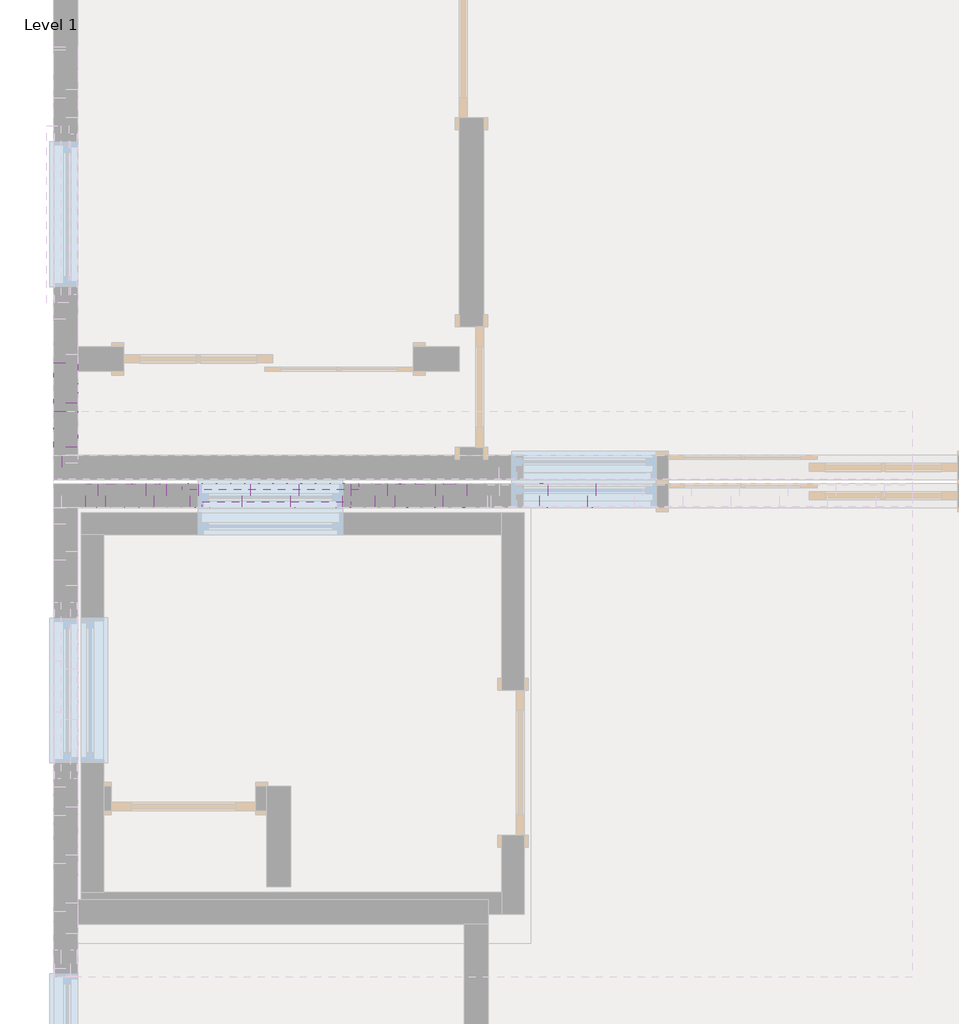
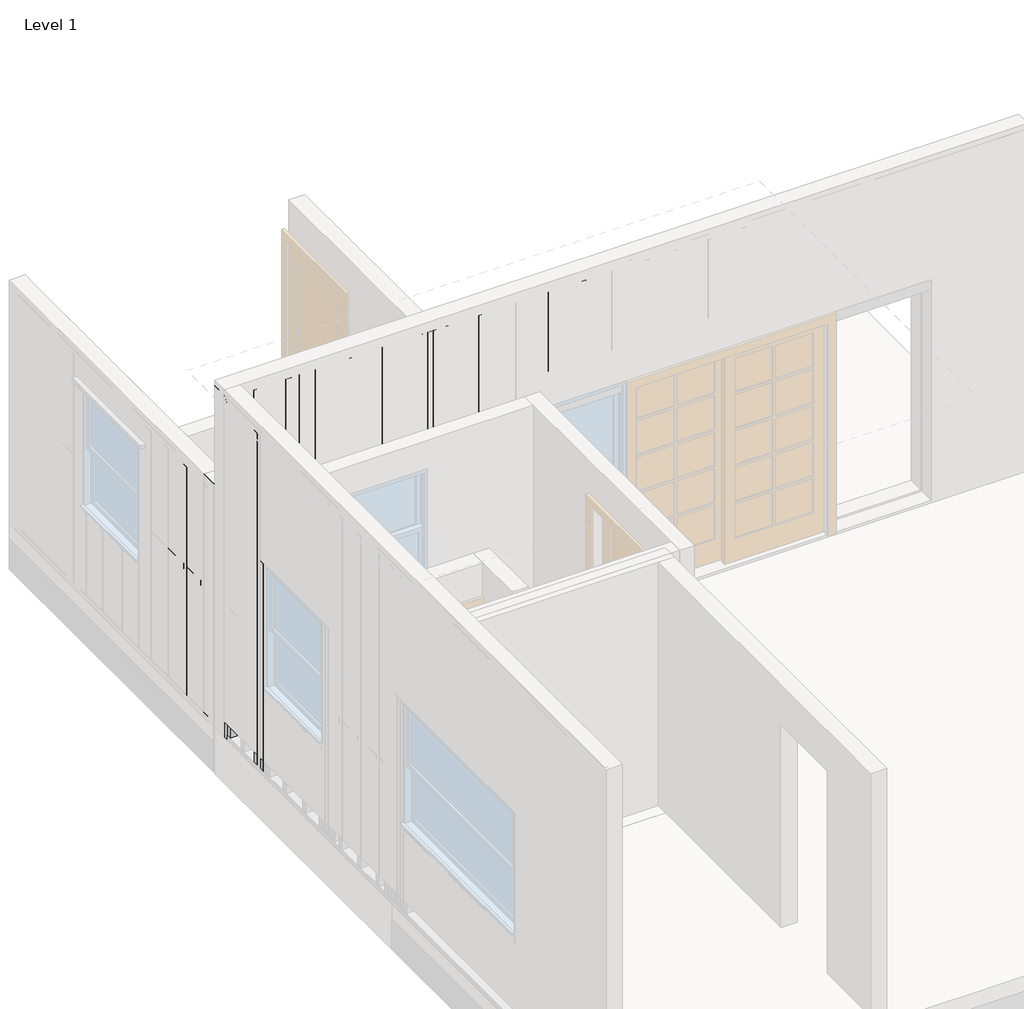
# One storey, part 8 of 12: 97 beams.
"""IFC4 building model written with IfcOpenShell, lengths in millimetres."""

from ifc_helpers import new_model, si_unit, frame, origin, origin_with_axes, place, context, project, spatial, polyline, outline, extrude, transform, mapped, element, save
from components import beam_a9cb3005, beam_e4510ef5, dimension_lumber_2x6_64087709, beam_0e257e4f, beam_ae0cc952, beam_fa8ff98f, beam_4ebb4f1d, beam_d4d02063, beam_4777987f, beam_558964e0, beam_a6087a68, beam_15472744, beam_b2f74068, beam_19b97b81, beam_be169553, beam_752c70e0, beam_e2420293, beam_c7d5a1a4, beam_9beb57b8, beam_4a104cc5, beam_9d6aa0d6, beam_6150974a, beam_3e93aa5a, beam_a6a72058, beam_0c42ba8b, beam_97ee1fa4, beam_1e26743b, beam_d29d678d, beam_a4d90c35, beam_b0a01ff6, beam_d6eb6cf6, beam_9a5d82eb, beam_906e102a

model = new_model("IFC4")

# Units and contexts
model_context = context("Model", 3, world=origin())
ifc_project = project(units=[si_unit("LENGTHUNIT", "METRE", prefix="MILLI")], contexts=[model_context])

# Site, building, storey
site = spatial("IfcSite", under=ifc_project)
building = spatial("IfcBuilding", under=site)
storey = spatial("IfcBuildingStorey", under=building, Name="Level 1", Elevation=0.0)

# Beams
placement = place(None, origin())
beam_shape = beam_a9cb3005(model_context)
element("IfcBeam", 1, ObjectType="BraceBeam : 2\" x 8\"", at=placement, inside=storey, context=model_context, shape_type="MappedRepresentation", body=[
    mapped(beam_shape, transform((-10158.0790766, -18779.0263369, 2244.725), x_axis=(-1.0, 0.0, 0.0), y_axis=(0.0, -1.0, 0.0), z_axis=(0.0, 0.0, 1.0))),
])
beam_2_shape = beam_e4510ef5(model_context)
element("IfcBeam", 2, ObjectType="BraceBeam : 2\" x 8\"", at=placement, inside=storey, context=model_context, shape_type="MappedRepresentation", body=[
    mapped(beam_2_shape, transform((-10119.9790766, -18893.3263369, 2244.725), x_axis=(-1.0, 0.0, 0.0), y_axis=(0.0, -1.0, 0.0), z_axis=(0.0, 0.0, 1.0))),
])
dimension_lumber_2x6_shape = dimension_lumber_2x6_64087709(model_context)
element("IfcBeam", 3, ObjectType="Dimension Lumber : 2x6", at=placement, inside=storey, context=model_context, shape_type="MappedRepresentation", body=[
    mapped(dimension_lumber_2x6_shape, transform((-10094.5840766, -18836.1763369, 25.4), x_axis=(-1.0000000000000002, 0.0, 0.0), y_axis=(0.0, 0.0, -1.0000000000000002), z_axis=(0.0, -1.0000000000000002, 0.0))),
])
element("IfcBeam", 4, ObjectType="Rectangular(Timber)-Beam : Timber_0' - 1 31/32\" x0' - 5 29/32\" _ContentGenerator", at=placement, inside=storey, context=model_context, shape_type="SweptSolid", body=[
    extrude(outline(polyline([(-11478.8690766, -18759.9763369), (-11428.0690766, -18759.9763369), (-11428.0690766, -18912.3763369), (-11478.8690766, -18912.3763369), (-11478.8690766, -18759.9763369)])), frame((0.0, 0.0, 50.8), z_axis=(0.0, 0.0, 1.0), x_axis=(1.0, 0.0, 0.0)), (0.0, 0.0, 1.0), 3330.056975),
])
element("IfcBeam", 5, ObjectType="Rectangular(Timber)-Beam : Timber_0' - 1 31/32\" x0' - 5 29/32\" _ContentGenerator", at=placement, inside=storey, context=model_context, shape_type="SweptSolid", body=[
    extrude(outline(polyline([(2336.8, -11529.6840766), (2387.6, -11478.8840766), (2438.4, -11529.6840766), (2336.8, -11529.6840766)])), frame((0.0, -18734.6431336, 0.0), z_axis=(0.0, 1.0, 0.0), x_axis=(0.0, 0.0, 1.0)), (0.0, 0.0, 1.0), 152.4),
])
element("IfcBeam", 6, ObjectType="Rectangular(Timber)-Beam : Timber_0' - 1 31/32\" x0' - 5 29/32\" _ContentGenerator", at=placement, inside=storey, context=model_context, shape_type="SweptSolid", body=[
    extrude(outline(polyline([(-8612.1836983, -18582.2431336), (-8612.1836983, -18734.6431336), (-11529.6790766, -18734.6431336), (-11529.6790766, -18582.2431336), (-8612.1836983, -18582.2431336)])), origin_with_axes(), (0.0, 0.0, 1.0), 50.8),
])
element("IfcBeam", 7, ObjectType="Rectangular(Timber)-Beam : Timber_0' - 1 31/32\" x0' - 5 29/32\" _ContentGenerator", at=placement, inside=storey, context=model_context, shape_type="SweptSolid", body=[
    extrude(outline(polyline([(-18963.1863369, 3378.2), (-18912.3863369, 3429.0), (-18912.3863369, 0.0), (-18963.1863369, 0.0), (-18963.1863369, 3378.2)])), frame((-11529.6790766, 0.0, 0.0), z_axis=(1.0, 0.0, 0.0), x_axis=(0.0, 1.0, 0.0)), (0.0, 0.0, 1.0), 152.4),
])
element("IfcBeam", 8, ObjectType="Rectangular(Timber)-Beam : Timber_0' - 1 31/32\" x0' - 5 29/32\" _ContentGenerator", at=placement, inside=storey, context=model_context, shape_type="SweptSolid", body=[
    extrude(outline(polyline([(-11529.6790766, -18759.9763369), (-11478.8790766, -18759.9763369), (-11478.8790766, -18912.3763369), (-11529.6790766, -18912.3763369), (-11529.6790766, -18759.9763369)])), origin_with_axes(), (0.0, 0.0, 1.0), 3431.656975),
])
element("IfcBeam", 9, ObjectType="Rectangular(Timber)-Beam : Timber_0' - 1 31/32\" x0' - 5 29/32\" _ContentGenerator", at=placement, inside=storey, context=model_context, shape_type="SweptSolid", body=[
    extrude(outline(polyline([(-11377.2790766, -18683.7763369), (-11377.2790766, -18734.5763369), (-11529.6790766, -18734.5763369), (-11529.6790766, -18683.7763369), (-11377.2790766, -18683.7763369)])), frame((0.0, 0.0, 50.8), z_axis=(0.0, 0.0, 1.0), x_axis=(1.0, 0.0, 0.0)), (0.0, 0.0, 1.0), 2286.0),
])
element("IfcBeam", 10, ObjectType="Rectangular(Timber)-Beam : Timber_0' - 1 31/32\" x0' - 5 29/32\" _ContentGenerator", at=placement, inside=storey, context=model_context, shape_type="SweptSolid", body=[
    extrude(outline(polyline([(-18632.9763369, 2387.6), (-18582.1763369, 2336.8), (-18582.1763369, 50.8), (-18632.9763369, 50.8), (-18632.9763369, 2387.6)])), frame((-11529.6790766, 0.0, 0.0), z_axis=(1.0, 0.0, 0.0), x_axis=(0.0, 1.0, 0.0)), (0.0, 0.0, 1.0), 152.4),
])
element("IfcBeam", 11, ObjectType="Rectangular(Timber)-Beam : Timber_0' - 1 31/32\" x0' - 5 29/32\" _ContentGenerator", at=placement, inside=storey, context=model_context, shape_type="SweptSolid", body=[
    extrude(outline(polyline([(-11377.2790766, -18531.3763369), (-11377.2790766, -18582.1763369), (-11529.6790766, -18582.1763369), (-11529.6790766, -18531.3763369), (-11377.2790766, -18531.3763369)])), frame((0.0, 0.0, 50.8), z_axis=(0.0, 0.0, 1.0), x_axis=(1.0, 0.0, 0.0)), (0.0, 0.0, 1.0), 2286.0),
])
element("IfcBeam", 12, ObjectType="Rectangular(Timber)-Beam : Timber_0' - 1 31/32\" x0' - 5 29/32\" _ContentGenerator", at=placement, inside=storey, context=model_context, shape_type="SweptSolid", body=[
    extrude(outline(polyline([(-9700.8790772, -18759.9763369), (-9700.8790772, -18912.3763369), (-10615.2790766, -18912.3763369), (-10615.2790766, -18759.9763369), (-9700.8790772, -18759.9763369)])), frame((0.0, 0.0, 882.65), z_axis=(0.0, 0.0, 1.0), x_axis=(1.0, 0.0, 0.0)), (0.0, 0.0, 1.0), 50.8),
])
beam_3_shape = beam_0e257e4f(model_context)
element("IfcBeam", 13, ObjectType="Rectangular(Timber)-Beam : Timber_0' - 1 31/32\" x0' - 5 29/32\" _ContentGenerator", at=placement, inside=storey, context=model_context, shape_type="MappedRepresentation", body=[
    mapped(beam_3_shape, transform((-10310.4790766, -18836.1763369, 466.725), x_axis=(0.0, 0.0, 1.0), y_axis=(1.0, 0.0, 0.0), z_axis=(0.0, 1.0, 0.0))),
])
element("IfcBeam", 14, ObjectType="Rectangular(Timber)-Beam : Timber_0' - 1 31/32\" x0' - 5 29/32\" _ContentGenerator", at=placement, inside=storey, context=model_context, shape_type="MappedRepresentation", body=[
    mapped(beam_3_shape, transform((-10005.6790766, -18836.1763369, 466.725), x_axis=(0.0, 0.0, 1.0), y_axis=(1.0, 0.0, 0.0), z_axis=(0.0, 1.0, 0.0))),
])
element("IfcBeam", 15, ObjectType="Rectangular(Timber)-Beam : Timber_0' - 1 31/32\" x0' - 5 29/32\" _ContentGenerator", at=placement, inside=storey, context=model_context, shape_type="MappedRepresentation", body=[
    mapped(beam_3_shape, transform((-9726.2790766, -18836.1763369, 466.725), x_axis=(0.0, 0.0, 1.0), y_axis=(1.0, 0.0, 0.0), z_axis=(0.0, 1.0, 0.0))),
])
element("IfcBeam", 16, ObjectType="Rectangular(Timber)-Beam : Timber_0' - 1 31/32\" x0' - 5 29/32\" _ContentGenerator", at=placement, inside=storey, context=model_context, shape_type="MappedRepresentation", body=[
    mapped(beam_3_shape, transform((-10589.8790766, -18836.1763369, 466.725), x_axis=(0.0, 0.0, 1.0), y_axis=(1.0, 0.0, 0.0), z_axis=(0.0, 1.0, 0.0))),
])
beam_4_shape = beam_ae0cc952(model_context)
element("IfcBeam", 17, ObjectType="Rectangular(Timber)-Beam : Timber_0' - 1 31/32\" x0' - 5 29/32\" _ContentGenerator", at=placement, inside=storey, context=model_context, shape_type="MappedRepresentation", body=[
    mapped(beam_4_shape, transform((-10005.6790766, -18836.1763369, 2884.2284875), x_axis=(0.0, 0.0, 1.0), y_axis=(1.0, 0.0, 0.0), z_axis=(0.0, 1.0, 0.0))),
])
element("IfcBeam", 18, ObjectType="Rectangular(Timber)-Beam : Timber_0' - 1 31/32\" x0' - 5 29/32\" _ContentGenerator", at=placement, inside=storey, context=model_context, shape_type="MappedRepresentation", body=[
    mapped(beam_4_shape, transform((-10310.4790766, -18836.1763369, 2884.2284875), x_axis=(0.0, 0.0, 1.0), y_axis=(1.0, 0.0, 0.0), z_axis=(0.0, 1.0, 0.0))),
])
element("IfcBeam", 19, ObjectType="Rectangular(Timber)-Beam : Timber_0' - 1 31/32\" x0' - 5 29/32\" _ContentGenerator", at=placement, inside=storey, context=model_context, shape_type="MappedRepresentation", body=[
    mapped(beam_4_shape, transform((-9675.4790766, -18836.1763369, 2884.2284875), x_axis=(0.0, 0.0, 1.0), y_axis=(1.0, 0.0, 0.0), z_axis=(0.0, 1.0, 0.0))),
])
element("IfcBeam", 20, ObjectType="Rectangular(Timber)-Beam : Timber_0' - 1 31/32\" x0' - 5 29/32\" _ContentGenerator", at=placement, inside=storey, context=model_context, shape_type="MappedRepresentation", body=[
    mapped(beam_4_shape, transform((-10640.6790766, -18836.1763369, 2884.2284875), x_axis=(0.0, 0.0, 1.0), y_axis=(1.0, 0.0, 0.0), z_axis=(0.0, 1.0, 0.0))),
])
beam_5_shape = beam_fa8ff98f(model_context)
element("IfcBeam", 21, ObjectType="Rectangular(Timber)-Beam : Timber_0' - 1 31/32\" x0' - 5 29/32\" _ContentGenerator", at=placement, inside=storey, context=model_context, shape_type="MappedRepresentation", body=[
    mapped(beam_5_shape, transform((-8126.9257433, -18836.1763369, 2985.8284875), x_axis=(0.0, 0.0, 1.0), y_axis=(1.0, 0.0, 0.0), z_axis=(0.0, 1.0, 0.0))),
])
element("IfcBeam", 22, ObjectType="Rectangular(Timber)-Beam : Timber_0' - 1 31/32\" x0' - 5 29/32\" _ContentGenerator", at=placement, inside=storey, context=model_context, shape_type="MappedRepresentation", body=[
    mapped(beam_5_shape, transform((-8431.7257433, -18836.1763369, 2985.8284875), x_axis=(0.0, 0.0, 1.0), y_axis=(1.0, 0.0, 0.0), z_axis=(0.0, 1.0, 0.0))),
])
beam_6_shape = beam_4ebb4f1d(model_context)
element("IfcBeam", 23, ObjectType="Rectangular(Timber)-Beam : Timber_0' - 1 31/32\" x0' - 5 29/32\" _ContentGenerator", at=placement, inside=storey, context=model_context, shape_type="MappedRepresentation", body=[
    mapped(beam_6_shape, transform((-10869.2790766, -18836.1763369, 1314.45), x_axis=(1.0000000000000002, 0.0, 0.0), y_axis=(0.0, 0.0, -1.0000000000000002), z_axis=(0.0, 1.0000000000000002, 0.0))),
])
beam_7_shape = beam_d4d02063(model_context)
element("IfcBeam", 24, ObjectType="Rectangular(Timber)-Beam : Timber_0' - 1 31/32\" x0' - 5 29/32\" _ContentGenerator", at=placement, inside=storey, context=model_context, shape_type="MappedRepresentation", body=[
    mapped(beam_7_shape, transform((-9004.1313874, -18658.4431336, 1219.2), x_axis=(-1.0000000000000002, 0.0, 0.0), y_axis=(0.0, 0.0, -1.0000000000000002), z_axis=(0.0, -1.0000000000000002, 0.0))),
])
beam_8_shape = beam_4777987f(model_context)
element("IfcBeam", 25, ObjectType="Rectangular(Timber)-Beam : Timber_0' - 1 31/32\" x0' - 5 29/32\" _ContentGenerator", at=placement, inside=storey, context=model_context, shape_type="MappedRepresentation", body=[
    mapped(beam_8_shape, transform((-8991.4363874, -18836.1763369, 1314.45), x_axis=(1.0000000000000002, 0.0, 0.0), y_axis=(0.0, 0.0, -1.0000000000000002), z_axis=(0.0, 1.0000000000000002, 0.0))),
])
beam_9_shape = beam_558964e0(model_context)
element("IfcBeam", 26, ObjectType="Rectangular(Timber)-Beam : Timber_0' - 1 31/32\" x0' - 5 29/32\" _ContentGenerator", at=placement, inside=storey, context=model_context, shape_type="MappedRepresentation", body=[
    mapped(beam_9_shape, transform((-9142.0790766, -18658.4431336, 1193.8), x_axis=(0.0, 0.0, 1.0), y_axis=(-1.0, 0.0, 0.0), z_axis=(0.0, -1.0, 0.0))),
])
element("IfcBeam", 27, ObjectType="Rectangular(Timber)-Beam : Timber_0' - 1 31/32\" x0' - 5 29/32\" _ContentGenerator", at=placement, inside=storey, context=model_context, shape_type="MappedRepresentation", body=[
    mapped(beam_9_shape, transform((-9446.8790766, -18658.4431336, 1193.8), x_axis=(0.0, 0.0, 1.0), y_axis=(-1.0, 0.0, 0.0), z_axis=(0.0, -1.0, 0.0))),
])
element("IfcBeam", 28, ObjectType="Rectangular(Timber)-Beam : Timber_0' - 1 31/32\" x0' - 5 29/32\" _ContentGenerator", at=placement, inside=storey, context=model_context, shape_type="MappedRepresentation", body=[
    mapped(beam_9_shape, transform((-9751.6790766, -18658.4431336, 1193.8), x_axis=(0.0, 0.0, 1.0), y_axis=(-1.0, 0.0, 0.0), z_axis=(0.0, -1.0, 0.0))),
])
element("IfcBeam", 29, ObjectType="Rectangular(Timber)-Beam : Timber_0' - 1 31/32\" x0' - 5 29/32\" _ContentGenerator", at=placement, inside=storey, context=model_context, shape_type="MappedRepresentation", body=[
    mapped(beam_9_shape, transform((-10056.4790766, -18658.4431336, 1193.8), x_axis=(0.0, 0.0, 1.0), y_axis=(-1.0, 0.0, 0.0), z_axis=(0.0, -1.0, 0.0))),
])
element("IfcBeam", 30, ObjectType="Rectangular(Timber)-Beam : Timber_0' - 1 31/32\" x0' - 5 29/32\" _ContentGenerator", at=placement, inside=storey, context=model_context, shape_type="MappedRepresentation", body=[
    mapped(beam_9_shape, transform((-10361.2790766, -18658.4431336, 1193.8), x_axis=(0.0, 0.0, 1.0), y_axis=(-1.0, 0.0, 0.0), z_axis=(0.0, -1.0, 0.0))),
])
element("IfcBeam", 31, ObjectType="Rectangular(Timber)-Beam : Timber_0' - 1 31/32\" x0' - 5 29/32\" _ContentGenerator", at=placement, inside=storey, context=model_context, shape_type="MappedRepresentation", body=[
    mapped(beam_9_shape, transform((-10666.0790766, -18658.4431336, 1193.8), x_axis=(0.0, 0.0, 1.0), y_axis=(-1.0, 0.0, 0.0), z_axis=(0.0, -1.0, 0.0))),
])
element("IfcBeam", 32, ObjectType="Rectangular(Timber)-Beam : Timber_0' - 1 31/32\" x0' - 5 29/32\" _ContentGenerator", at=placement, inside=storey, context=model_context, shape_type="MappedRepresentation", body=[
    mapped(beam_9_shape, transform((-10970.8790766, -18658.4431336, 1193.8), x_axis=(0.0, 0.0, 1.0), y_axis=(-1.0, 0.0, 0.0), z_axis=(0.0, -1.0, 0.0))),
])
element("IfcBeam", 33, ObjectType="Rectangular(Timber)-Beam : Timber_0' - 1 31/32\" x0' - 5 29/32\" _ContentGenerator", at=placement, inside=storey, context=model_context, shape_type="MappedRepresentation", body=[
    mapped(beam_9_shape, transform((-11453.4790766, -18277.4431336, 1193.8), x_axis=(0.0, 0.0, 1.0), y_axis=(0.0, -1.0, 0.0), z_axis=(1.0, 0.0, 0.0))),
])
element("IfcBeam", 34, ObjectType="Rectangular(Timber)-Beam : Timber_0' - 1 31/32\" x0' - 5 29/32\" _ContentGenerator", at=placement, inside=storey, context=model_context, shape_type="MappedRepresentation", body=[
    mapped(beam_9_shape, transform((-11453.4790766, -18658.3763369, 1193.8), x_axis=(0.0, 0.0, 1.0), y_axis=(0.0, -1.0, 0.0), z_axis=(1.0, 0.0, 0.0))),
])
element("IfcBeam", 35, ObjectType="Rectangular(Timber)-Beam : Timber_0' - 1 31/32\" x0' - 5 29/32\" _ContentGenerator", at=placement, inside=storey, context=model_context, shape_type="MappedRepresentation", body=[
    mapped(beam_9_shape, transform((-11351.8690766, -18658.4431336, 1193.8), x_axis=(0.0, 0.0, 1.0), y_axis=(-1.0, 0.0, 0.0), z_axis=(0.0, -1.0, 0.0))),
])
element("IfcBeam", 36, ObjectType="Rectangular(Timber)-Beam : Timber_0' - 1 31/32\" x0' - 5 29/32\" _ContentGenerator", at=placement, inside=storey, context=model_context, shape_type="MappedRepresentation", body=[
    mapped(beam_9_shape, transform((-11301.0590766, -18658.4431336, 1193.8), x_axis=(0.0, 0.0, 1.0), y_axis=(-1.0, 0.0, 0.0), z_axis=(0.0, -1.0, 0.0))),
])
beam_10_shape = beam_a6087a68(model_context)
element("IfcBeam", 37, ObjectType="Rectangular(Timber)-Beam : Timber_0' - 1 31/32\" x0' - 5 29/32\" _ContentGenerator", at=placement, inside=storey, context=model_context, shape_type="MappedRepresentation", body=[
    mapped(beam_10_shape, transform((-11072.4790766, -18836.1763369, 1314.45), x_axis=(1.0000000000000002, 0.0, 0.0), y_axis=(0.0, 0.0, -1.0000000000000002), z_axis=(0.0, 1.0000000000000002, 0.0))),
])
element("IfcBeam", 38, ObjectType="Rectangular(Timber)-Beam : Timber_0' - 1 31/32\" x0' - 5 29/32\" _ContentGenerator", at=placement, inside=storey, context=model_context, shape_type="MappedRepresentation", body=[
    mapped(beam_10_shape, transform((-9243.6790766, -18836.1763369, 1314.45), x_axis=(1.0000000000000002, 0.0, 0.0), y_axis=(0.0, 0.0, -1.0000000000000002), z_axis=(0.0, 1.0000000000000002, 0.0))),
])
beam_11_shape = beam_15472744(model_context)
element("IfcBeam", 39, ObjectType="Rectangular(Timber)-Beam : Timber_0' - 1 31/32\" x0' - 5 29/32\" _ContentGenerator", at=placement, inside=storey, context=model_context, shape_type="MappedRepresentation", body=[
    mapped(beam_11_shape, transform((-11402.6690766, -18836.1763369, 1715.8284875), x_axis=(0.0, 0.0, 1.0), y_axis=(1.0, 0.0, 0.0), z_axis=(0.0, 1.0, 0.0))),
])
element("IfcBeam", 40, ObjectType="Rectangular(Timber)-Beam : Timber_0' - 1 31/32\" x0' - 5 29/32\" _ContentGenerator", at=placement, inside=storey, context=model_context, shape_type="MappedRepresentation", body=[
    mapped(beam_11_shape, transform((-11224.8790766, -18836.1763369, 1715.8284875), x_axis=(0.0, 0.0, 1.0), y_axis=(1.0, 0.0, 0.0), z_axis=(0.0, 1.0, 0.0))),
])
element("IfcBeam", 41, ObjectType="Rectangular(Timber)-Beam : Timber_0' - 1 31/32\" x0' - 5 29/32\" _ContentGenerator", at=placement, inside=storey, context=model_context, shape_type="MappedRepresentation", body=[
    mapped(beam_11_shape, transform((-10920.0790766, -18836.1763369, 1715.8284875), x_axis=(0.0, 0.0, 1.0), y_axis=(1.0, 0.0, 0.0), z_axis=(0.0, 1.0, 0.0))),
])
element("IfcBeam", 42, ObjectType="Rectangular(Timber)-Beam : Timber_0' - 1 31/32\" x0' - 5 29/32\" _ContentGenerator", at=placement, inside=storey, context=model_context, shape_type="MappedRepresentation", body=[
    mapped(beam_11_shape, transform((-9396.0790766, -18836.1763369, 1715.8284875), x_axis=(0.0, 0.0, 1.0), y_axis=(1.0, 0.0, 0.0), z_axis=(0.0, 1.0, 0.0))),
])
element("IfcBeam", 43, ObjectType="Rectangular(Timber)-Beam : Timber_0' - 1 31/32\" x0' - 5 29/32\" _ContentGenerator", at=placement, inside=storey, context=model_context, shape_type="MappedRepresentation", body=[
    mapped(beam_11_shape, transform((-11351.8690766, -18836.1763369, 1715.8284875), x_axis=(0.0, 0.0, 1.0), y_axis=(1.0, 0.0, 0.0), z_axis=(0.0, 1.0, 0.0))),
])
element("IfcBeam", 44, ObjectType="Rectangular(Timber)-Beam : Timber_0' - 1 31/32\" x0' - 5 29/32\" _ContentGenerator", at=placement, inside=storey, context=model_context, shape_type="MappedRepresentation", body=[
    mapped(beam_11_shape, transform((-10742.2790766, -18836.1763369, 1715.8284875), x_axis=(0.0, 0.0, 1.0), y_axis=(1.0, 0.0, 0.0), z_axis=(0.0, 1.0, 0.0))),
])
element("IfcBeam", 45, ObjectType="Rectangular(Timber)-Beam : Timber_0' - 1 31/32\" x0' - 5 29/32\" _ContentGenerator", at=placement, inside=storey, context=model_context, shape_type="MappedRepresentation", body=[
    mapped(beam_11_shape, transform((-9573.8790766, -18836.1763369, 1715.8284875), x_axis=(0.0, 0.0, 1.0), y_axis=(1.0, 0.0, 0.0), z_axis=(0.0, 1.0, 0.0))),
])
element("IfcBeam", 46, ObjectType="Rectangular(Timber)-Beam : Timber_0' - 1 31/32\" x0' - 5 29/32\" _ContentGenerator", at=placement, inside=storey, context=model_context, shape_type="MappedRepresentation", body=[
    mapped(beam_11_shape, transform((-9091.2790766, -18836.1763369, 1715.8284875), x_axis=(0.0, 0.0, 1.0), y_axis=(1.0, 0.0, 0.0), z_axis=(0.0, 1.0, 0.0))),
])
element("IfcBeam", 47, ObjectType="Rectangular(Timber)-Beam : Timber_0' - 1 31/32\" x0' - 5 29/32\" _ContentGenerator", at=placement, inside=storey, context=model_context, shape_type="MappedRepresentation", body=[
    mapped(beam_11_shape, transform((-9523.0790766, -18836.1763369, 1715.8284875), x_axis=(0.0, 0.0, 1.0), y_axis=(1.0, 0.0, 0.0), z_axis=(0.0, 1.0, 0.0))),
])
element("IfcBeam", 48, ObjectType="Rectangular(Timber)-Beam : Timber_0' - 1 31/32\" x0' - 5 29/32\" _ContentGenerator", at=placement, inside=storey, context=model_context, shape_type="MappedRepresentation", body=[
    mapped(beam_11_shape, transform((-10793.0790766, -18836.1763369, 1715.8284875), x_axis=(0.0, 0.0, 1.0), y_axis=(1.0, 0.0, 0.0), z_axis=(0.0, 1.0, 0.0))),
])
beam_12_shape = beam_b2f74068(model_context)
element("IfcBeam", 49, ObjectType="Rectangular(Timber)-Beam : Timber_0' - 1 31/32\" x0' - 5 29/32\" _ContentGenerator", at=placement, inside=storey, context=model_context, shape_type="MappedRepresentation", body=[
    mapped(beam_12_shape, transform((-11453.4790766, -18988.5863369, 1714.5), x_axis=(0.0, 0.0, 1.0), y_axis=(0.0, -1.0, 0.0), z_axis=(1.0, 0.0, 0.0))),
])
element("IfcBeam", 50, ObjectType="Rectangular(Timber)-Beam : Timber_0' - 1 31/32\" x0' - 5 29/32\" _ContentGenerator", at=placement, inside=storey, context=model_context, shape_type="MappedRepresentation", body=[
    mapped(beam_12_shape, transform((-11453.4790766, -19433.1063369, 1714.5), x_axis=(0.0, 0.0, 1.0), y_axis=(0.0, -1.0, 0.0), z_axis=(1.0, 0.0, 0.0))),
])
beam_13_shape = beam_19b97b81(model_context)
element("IfcBeam", 51, ObjectType="Rectangular(Timber)-Beam : Timber_0' - 1 31/32\" x0' - 5 29/32\" _ContentGenerator", at=placement, inside=storey, context=model_context, shape_type="MappedRepresentation", body=[
    mapped(beam_13_shape, transform((-9294.4790766, -18658.4431336, 1219.2), x_axis=(-1.0000000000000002, 0.0, 0.0), y_axis=(0.0, 0.0, -1.0000000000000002), z_axis=(0.0, -1.0000000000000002, 0.0))),
])
element("IfcBeam", 52, ObjectType="Rectangular(Timber)-Beam : Timber_0' - 1 31/32\" x0' - 5 29/32\" _ContentGenerator", at=placement, inside=storey, context=model_context, shape_type="MappedRepresentation", body=[
    mapped(beam_13_shape, transform((-9599.2790766, -18658.4431336, 1219.2), x_axis=(-1.0000000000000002, 0.0, 0.0), y_axis=(0.0, 0.0, -1.0000000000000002), z_axis=(0.0, -1.0000000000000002, 0.0))),
])
element("IfcBeam", 53, ObjectType="Rectangular(Timber)-Beam : Timber_0' - 1 31/32\" x0' - 5 29/32\" _ContentGenerator", at=placement, inside=storey, context=model_context, shape_type="MappedRepresentation", body=[
    mapped(beam_13_shape, transform((-9904.0790766, -18658.4431336, 1219.2), x_axis=(-1.0000000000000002, 0.0, 0.0), y_axis=(0.0, 0.0, -1.0000000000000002), z_axis=(0.0, -1.0000000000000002, 0.0))),
])
element("IfcBeam", 54, ObjectType="Rectangular(Timber)-Beam : Timber_0' - 1 31/32\" x0' - 5 29/32\" _ContentGenerator", at=placement, inside=storey, context=model_context, shape_type="MappedRepresentation", body=[
    mapped(beam_13_shape, transform((-10208.8790766, -18658.4431336, 1219.2), x_axis=(-1.0000000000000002, 0.0, 0.0), y_axis=(0.0, 0.0, -1.0000000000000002), z_axis=(0.0, -1.0000000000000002, 0.0))),
])
element("IfcBeam", 55, ObjectType="Rectangular(Timber)-Beam : Timber_0' - 1 31/32\" x0' - 5 29/32\" _ContentGenerator", at=placement, inside=storey, context=model_context, shape_type="MappedRepresentation", body=[
    mapped(beam_13_shape, transform((-10513.6790766, -18658.4431336, 1219.2), x_axis=(-1.0000000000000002, 0.0, 0.0), y_axis=(0.0, 0.0, -1.0000000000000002), z_axis=(0.0, -1.0000000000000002, 0.0))),
])
element("IfcBeam", 56, ObjectType="Rectangular(Timber)-Beam : Timber_0' - 1 31/32\" x0' - 5 29/32\" _ContentGenerator", at=placement, inside=storey, context=model_context, shape_type="MappedRepresentation", body=[
    mapped(beam_13_shape, transform((-10818.4790766, -18658.4431336, 1219.2), x_axis=(-1.0000000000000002, 0.0, 0.0), y_axis=(0.0, 0.0, -1.0000000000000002), z_axis=(0.0, -1.0000000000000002, 0.0))),
])
element("IfcBeam", 57, ObjectType="Rectangular(Timber)-Beam : Timber_0' - 1 31/32\" x0' - 5 29/32\" _ContentGenerator", at=placement, inside=storey, context=model_context, shape_type="MappedRepresentation", body=[
    mapped(beam_13_shape, transform((-11453.4790766, -18125.0431336, 1314.45), x_axis=(0.0, 1.0000000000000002, 0.0), y_axis=(0.0, 0.0, -1.0000000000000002), z_axis=(-1.0000000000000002, 0.0, 0.0))),
])
beam_14_shape = beam_be169553(model_context)
element("IfcBeam", 58, ObjectType="Rectangular(Timber)-Beam : Timber_0' - 1 31/32\" x0' - 5 29/32\" _ContentGenerator", at=placement, inside=storey, context=model_context, shape_type="MappedRepresentation", body=[
    mapped(beam_14_shape, transform((-11135.9690766, -18658.4431336, 1219.2), x_axis=(-1.0000000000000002, 0.0, 0.0), y_axis=(0.0, 0.0, -1.0000000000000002), z_axis=(0.0, -1.0000000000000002, 0.0))),
])
beam_15_shape = beam_752c70e0(model_context)
element("IfcBeam", 59, ObjectType="Rectangular(Timber)-Beam : Timber_0' - 1 31/32\" x0' - 5 29/32\" _ContentGenerator", at=placement, inside=storey, context=model_context, shape_type="MappedRepresentation", body=[
    mapped(beam_15_shape, transform((-9446.8790766, -18836.1763369, 1314.45), x_axis=(1.0000000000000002, 0.0, 0.0), y_axis=(0.0, 0.0, -1.0000000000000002), z_axis=(0.0, 1.0000000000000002, 0.0))),
])
beam_16_shape = beam_e2420293(model_context)
element("IfcBeam", 60, ObjectType="Rectangular(Timber)-Beam : Timber_0' - 1 31/32\" x0' - 5 29/32\" _ContentGenerator", at=placement, inside=storey, context=model_context, shape_type="MappedRepresentation", body=[
    mapped(beam_16_shape, transform((-11453.4790766, -18404.4097353, 1314.45), x_axis=(0.0, 1.0000000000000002, 0.0), y_axis=(0.0, 0.0, -1.0000000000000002), z_axis=(-1.0000000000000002, 0.0, 0.0))),
])
beam_17_shape = beam_c7d5a1a4(model_context)
element("IfcBeam", 61, ObjectType="Rectangular(Timber)-Beam : Timber_0' - 1 31/32\" x0' - 5 29/32\" _ContentGenerator", at=placement, inside=storey, context=model_context, shape_type="MappedRepresentation", body=[
    mapped(beam_17_shape, transform((-11288.3740766, -18836.1763369, 1314.45), x_axis=(1.0000000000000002, 0.0, 0.0), y_axis=(0.0, 0.0, -1.0000000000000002), z_axis=(0.0, 1.0000000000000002, 0.0))),
])
beam_18_shape = beam_9beb57b8(model_context)
element("IfcBeam", 62, ObjectType="Rectangular(Timber)-Beam : Timber_0' - 1 31/32\" x0' - 5 29/32\" _ContentGenerator", at=placement, inside=storey, context=model_context, shape_type="MappedRepresentation", body=[
    mapped(beam_18_shape, transform((-10640.6790766, -18836.1763369, 1101.725), x_axis=(0.0, 0.0, 1.0), y_axis=(1.0, 0.0, 0.0), z_axis=(0.0, 1.0, 0.0))),
])
element("IfcBeam", 63, ObjectType="Rectangular(Timber)-Beam : Timber_0' - 1 31/32\" x0' - 5 29/32\" _ContentGenerator", at=placement, inside=storey, context=model_context, shape_type="MappedRepresentation", body=[
    mapped(beam_18_shape, transform((-9675.4790766, -18836.1763369, 1101.725), x_axis=(0.0, 0.0, 1.0), y_axis=(1.0, 0.0, 0.0), z_axis=(0.0, 1.0, 0.0))),
])
element("IfcBeam", 64, ObjectType="Rectangular(Timber)-Beam : Timber_0' - 1 31/32\" x0' - 5 29/32\" _ContentGenerator", at=placement, inside=storey, context=model_context, shape_type="MappedRepresentation", body=[
    mapped(beam_18_shape, transform((-9624.6790766, -18836.1763369, 1101.725), x_axis=(0.0, 0.0, 1.0), y_axis=(1.0, 0.0, 0.0), z_axis=(0.0, 1.0, 0.0))),
])
element("IfcBeam", 65, ObjectType="Rectangular(Timber)-Beam : Timber_0' - 1 31/32\" x0' - 5 29/32\" _ContentGenerator", at=placement, inside=storey, context=model_context, shape_type="MappedRepresentation", body=[
    mapped(beam_18_shape, transform((-10691.4790766, -18836.1763369, 1101.725), x_axis=(0.0, 0.0, 1.0), y_axis=(1.0, 0.0, 0.0), z_axis=(0.0, 1.0, 0.0))),
])
beam_19_shape = beam_4a104cc5(model_context)
element("IfcBeam", 66, ObjectType="Rectangular(Timber)-Beam : Timber_0' - 1 31/32\" x0' - 5 29/32\" _ContentGenerator", at=placement, inside=storey, context=model_context, shape_type="MappedRepresentation", body=[
    mapped(beam_19_shape, transform((-11453.4790766, -19534.6663369, 1090.6125), x_axis=(0.0, 0.0, 1.0), y_axis=(0.0, -1.0, 0.0), z_axis=(1.0, 0.0, 0.0))),
])
element("IfcBeam", 67, ObjectType="WallPlates : 6\" x 3\"", at=placement, inside=storey, context=model_context, shape_type="SweptSolid", body=[
    extrude(outline(polyline([(-9116.6790766, -18826.6513369), (-9116.6790766, -18763.1513369), (-8916.9936983, -18763.1513369), (-8916.9936983, -18826.6513369), (-9116.6790766, -18826.6513369)])), frame((0.0, 0.0, 1149.35), z_axis=(0.0, 0.0, 1.0), x_axis=(1.0, 0.0, 0.0)), (0.0, 0.0, 1.0), 139.7),
    extrude(outline(polyline([(-9065.8790766, -18763.1513369), (-8916.9936983, -18763.1513369), (-8916.9936983, -18826.6513369), (-9065.8790766, -18826.6513369), (-9065.8790766, -18763.1513369)])), frame((0.0, 0.0, 1149.35), z_axis=(0.0, 0.0, 1.0), x_axis=(1.0, 0.0, 0.0)), (0.0, 0.0, 1.0), 139.7),
])
element("IfcBeam", 68, ObjectType="WallPlates : 6\" x 3\"", at=placement, inside=storey, context=model_context, shape_type="SweptSolid", body=[
    extrude(outline(polyline([(-11250.2790766, -18826.6513369), (-11250.2790766, -18763.1513369), (-10945.4790766, -18763.1513369), (-10945.4790766, -18826.6513369), (-11250.2790766, -18826.6513369)])), frame((0.0, 0.0, 749.3), z_axis=(0.0, 0.0, 1.0), x_axis=(1.0, 0.0, 0.0)), (0.0, 0.0, 1.0), 139.7),
    extrude(outline(polyline([(-11199.4790766, -18763.1513369), (-10945.4790766, -18763.1513369), (-10945.4790766, -18826.6513369), (-11199.4790766, -18826.6513369), (-11199.4790766, -18763.1513369)])), frame((0.0, 0.0, 749.3), z_axis=(0.0, 0.0, 1.0), x_axis=(1.0, 0.0, 0.0)), (0.0, 0.0, 1.0), 139.7),
])
element("IfcBeam", 69, ObjectType="WallPlates : 6\" x 3\"", at=placement, inside=storey, context=model_context, shape_type="SweptSolid", body=[
    extrude(outline(polyline([(-10945.4790766, -18826.6513369), (-10945.4790766, -18763.1513369), (-10818.4790766, -18763.1513369), (-10818.4790766, -18826.6513369), (-10945.4790766, -18826.6513369)])), frame((0.0, 0.0, 749.3), z_axis=(0.0, 0.0, 1.0), x_axis=(1.0, 0.0, 0.0)), (0.0, 0.0, 1.0), 139.7),
    extrude(outline(polyline([(-10894.6790766, -18763.1513369), (-10818.4790766, -18763.1513369), (-10818.4790766, -18826.6513369), (-10894.6790766, -18826.6513369), (-10894.6790766, -18763.1513369)])), frame((0.0, 0.0, 749.3), z_axis=(0.0, 0.0, 1.0), x_axis=(1.0, 0.0, 0.0)), (0.0, 0.0, 1.0), 139.7),
])
element("IfcBeam", 70, ObjectType="WallPlates : 6\" x 3\"", at=placement, inside=storey, context=model_context, shape_type="SweptSolid", body=[
    extrude(outline(polyline([(-9421.4790766, -18826.6513369), (-9421.4790766, -18763.1513369), (-9116.6790766, -18763.1513369), (-9116.6790766, -18826.6513369), (-9421.4790766, -18826.6513369)])), frame((0.0, 0.0, 749.3), z_axis=(0.0, 0.0, 1.0), x_axis=(1.0, 0.0, 0.0)), (0.0, 0.0, 1.0), 139.7),
    extrude(outline(polyline([(-9370.6790766, -18763.1513369), (-9116.6790766, -18763.1513369), (-9116.6790766, -18826.6513369), (-9370.6790766, -18826.6513369), (-9370.6790766, -18763.1513369)])), frame((0.0, 0.0, 749.3), z_axis=(0.0, 0.0, 1.0), x_axis=(1.0, 0.0, 0.0)), (0.0, 0.0, 1.0), 139.7),
])
element("IfcBeam", 71, ObjectType="WallPlates : 6\" x 3\"", at=placement, inside=storey, context=model_context, shape_type="SweptSolid", body=[
    extrude(outline(polyline([(-10293.5457433, -18826.6513369), (-10293.5457433, -18763.1513369), (-9980.2790766, -18763.1513369), (-9980.2790766, -18826.6513369), (-10293.5457433, -18826.6513369)])), frame((0.0, 0.0, 742.95), z_axis=(0.0, 0.0, 1.0), x_axis=(1.0, 0.0, 0.0)), (0.0, 0.0, 1.0), 139.7),
])
element("IfcBeam", 72, ObjectType="WallPlates : 6\" x 3\"", at=placement, inside=storey, context=model_context, shape_type="SweptSolid", body=[
    extrude(outline(polyline([(-10564.4790766, -18826.6513369), (-10564.4790766, -18763.1513369), (-10293.5457433, -18763.1513369), (-10293.5457433, -18826.6513369), (-10564.4790766, -18826.6513369)])), frame((0.0, 0.0, 742.95), z_axis=(0.0, 0.0, 1.0), x_axis=(1.0, 0.0, 0.0)), (0.0, 0.0, 1.0), 139.7),
])
beam_20_shape = beam_9d6aa0d6(model_context)
element("IfcBeam", 73, ObjectType="WallPlates : 6\" x 3\"", at=placement, inside=storey, context=model_context, shape_type="MappedRepresentation", body=[
    mapped(beam_20_shape, transform((-9294.4790766, -18658.4431336, 1117.6), x_axis=(-1.0000000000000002, 0.0, 0.0), y_axis=(0.0, 0.0, -1.0000000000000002), z_axis=(0.0, -1.0000000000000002, 0.0))),
])
element("IfcBeam", 74, ObjectType="WallPlates : 6\" x 3\"", at=placement, inside=storey, context=model_context, shape_type="MappedRepresentation", body=[
    mapped(beam_20_shape, transform((-9599.2790766, -18658.4431336, 1117.6), x_axis=(-1.0000000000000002, 0.0, 0.0), y_axis=(0.0, 0.0, -1.0000000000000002), z_axis=(0.0, -1.0000000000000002, 0.0))),
])
element("IfcBeam", 75, ObjectType="WallPlates : 6\" x 3\"", at=placement, inside=storey, context=model_context, shape_type="MappedRepresentation", body=[
    mapped(beam_20_shape, transform((-9904.0790766, -18658.4431336, 1117.6), x_axis=(-1.0000000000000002, 0.0, 0.0), y_axis=(0.0, 0.0, -1.0000000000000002), z_axis=(0.0, -1.0000000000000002, 0.0))),
])
element("IfcBeam", 76, ObjectType="WallPlates : 6\" x 3\"", at=placement, inside=storey, context=model_context, shape_type="MappedRepresentation", body=[
    mapped(beam_20_shape, transform((-10208.8790766, -18658.4431336, 1117.6), x_axis=(-1.0000000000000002, 0.0, 0.0), y_axis=(0.0, 0.0, -1.0000000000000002), z_axis=(0.0, -1.0000000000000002, 0.0))),
])
element("IfcBeam", 77, ObjectType="WallPlates : 6\" x 3\"", at=placement, inside=storey, context=model_context, shape_type="MappedRepresentation", body=[
    mapped(beam_20_shape, transform((-10513.6790766, -18658.4431336, 1117.6), x_axis=(-1.0000000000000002, 0.0, 0.0), y_axis=(0.0, 0.0, -1.0000000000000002), z_axis=(0.0, -1.0000000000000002, 0.0))),
])
element("IfcBeam", 78, ObjectType="WallPlates : 6\" x 3\"", at=placement, inside=storey, context=model_context, shape_type="MappedRepresentation", body=[
    mapped(beam_20_shape, transform((-10818.4790766, -18658.4431336, 1117.6), x_axis=(-1.0000000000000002, 0.0, 0.0), y_axis=(0.0, 0.0, -1.0000000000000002), z_axis=(0.0, -1.0000000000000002, 0.0))),
])
beam_21_shape = beam_6150974a(model_context)
element("IfcBeam", 79, ObjectType="WallPlates : 6\" x 3\"", at=placement, inside=storey, context=model_context, shape_type="MappedRepresentation", body=[
    mapped(beam_21_shape, transform((-11135.9690766, -18658.4431336, 1117.6), x_axis=(-1.0000000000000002, 0.0, 0.0), y_axis=(0.0, 0.0, -1.0000000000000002), z_axis=(0.0, -1.0000000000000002, 0.0))),
])
beam_22_shape = beam_3e93aa5a(model_context)
element("IfcBeam", 80, ObjectType="WallPlates : 6\" x 3\"", at=placement, inside=storey, context=model_context, shape_type="MappedRepresentation", body=[
    mapped(beam_22_shape, transform((-11494.7540766, -19363.2313369, 793.75), x_axis=(0.0, -1.0000000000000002, 0.0), y_axis=(0.0, 0.0, -1.0000000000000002), z_axis=(1.0000000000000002, 0.0, 0.0))),
])
beam_23_shape = beam_a6a72058(model_context)
element("IfcBeam", 81, ObjectType="WallPlates : 6\" x 3\"", at=placement, inside=storey, context=model_context, shape_type="MappedRepresentation", body=[
    mapped(beam_23_shape, transform((-11494.7540766, -19759.0480036, 793.75), x_axis=(0.0, -1.0000000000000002, 0.0), y_axis=(0.0, 0.0, -1.0000000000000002), z_axis=(1.0000000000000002, 0.0, 0.0))),
])
beam_24_shape = beam_0c42ba8b(model_context)
element("IfcBeam", 82, ObjectType="WallPlates : 6\" x 3\"", at=placement, inside=storey, context=model_context, shape_type="MappedRepresentation", body=[
    mapped(beam_24_shape, transform((-11494.7540766, -19325.1413369, 1219.2), x_axis=(0.0, -1.0000000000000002, 0.0), y_axis=(0.0, 0.0, -1.0000000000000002), z_axis=(1.0000000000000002, 0.0, 0.0))),
])
beam_25_shape = beam_97ee1fa4(model_context)
element("IfcBeam", 83, ObjectType="WallPlates : 6\" x 3\"", at=placement, inside=storey, context=model_context, shape_type="MappedRepresentation", body=[
    mapped(beam_25_shape, transform((-9459.5790766, -18794.9013369, 1219.2), x_axis=(1.0000000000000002, 0.0, 0.0), y_axis=(0.0, 0.0, -1.0000000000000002), z_axis=(0.0, 1.0000000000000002, 0.0))),
])
element("IfcBeam", 84, ObjectType="WallPlates : 6\" x 3\"", at=placement, inside=storey, context=model_context, shape_type="MappedRepresentation", body=[
    mapped(beam_25_shape, transform((-9459.5790766, -18794.9013369, 819.15), x_axis=(1.0000000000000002, 0.0, 0.0), y_axis=(0.0, 0.0, -1.0000000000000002), z_axis=(0.0, 1.0000000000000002, 0.0))),
])
beam_26_shape = beam_1e26743b(model_context)
element("IfcBeam", 85, ObjectType="WallPlates : 6\" x 3\"", at=placement, inside=storey, context=model_context, shape_type="MappedRepresentation", body=[
    mapped(beam_26_shape, transform((-9865.9790766, -18794.9013369, 812.8), x_axis=(1.0000000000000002, 0.0, 0.0), y_axis=(0.0, 0.0, -1.0000000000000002), z_axis=(0.0, 1.0000000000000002, 0.0))),
])
beam_27_shape = beam_d29d678d(model_context)
element("IfcBeam", 86, ObjectType="WallPlates : 6\" x 3\"", at=placement, inside=storey, context=model_context, shape_type="MappedRepresentation", body=[
    mapped(beam_27_shape, transform((-11288.3740766, -18794.9013369, 819.15), x_axis=(1.0000000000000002, 0.0, 0.0), y_axis=(0.0, 0.0, -1.0000000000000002), z_axis=(0.0, 1.0000000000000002, 0.0))),
])
beam_28_shape = beam_a4d90c35(model_context)
element("IfcBeam", 87, ObjectType="WallPlates : 6\" x 3\"", at=placement, inside=storey, context=model_context, shape_type="MappedRepresentation", body=[
    mapped(beam_28_shape, transform((-11072.4790766, -18794.9013369, 1219.2), x_axis=(1.0000000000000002, 0.0, 0.0), y_axis=(0.0, 0.0, -1.0000000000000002), z_axis=(0.0, 1.0000000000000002, 0.0))),
])
element("IfcBeam", 88, ObjectType="WallPlates : 6\" x 3\"", at=placement, inside=storey, context=model_context, shape_type="MappedRepresentation", body=[
    mapped(beam_28_shape, transform((-9243.6790766, -18794.9013369, 1219.2), x_axis=(1.0000000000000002, 0.0, 0.0), y_axis=(0.0, 0.0, -1.0000000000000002), z_axis=(0.0, 1.0000000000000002, 0.0))),
])
element("IfcBeam", 89, ObjectType="WallPlates : 6\" x 3\"", at=placement, inside=storey, context=model_context, shape_type="MappedRepresentation", body=[
    mapped(beam_27_shape, transform((-11288.3740766, -18794.9013369, 1219.2), x_axis=(1.0000000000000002, 0.0, 0.0), y_axis=(0.0, 0.0, -1.0000000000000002), z_axis=(0.0, 1.0000000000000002, 0.0))),
])
element("IfcBeam", 90, ObjectType="WallPlates : 6\" x 3\"", at=placement, inside=storey, context=model_context, shape_type="MappedRepresentation", body=[
    mapped(beam_25_shape, transform((-10856.5790766, -18794.9013369, 1219.2), x_axis=(1.0000000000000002, 0.0, 0.0), y_axis=(0.0, 0.0, -1.0000000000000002), z_axis=(0.0, 1.0000000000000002, 0.0))),
])
beam_29_shape = beam_b0a01ff6(model_context)
element("IfcBeam", 91, ObjectType="WallPlates : 6\" x 3\"", at=placement, inside=storey, context=model_context, shape_type="MappedRepresentation", body=[
    mapped(beam_29_shape, transform((-8926.1790766, -18658.4431336, 1117.6), x_axis=(-1.0000000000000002, 0.0, 0.0), y_axis=(0.0, 0.0, -1.0000000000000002), z_axis=(0.0, -1.0000000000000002, 0.0))),
])
beam_30_shape = beam_d6eb6cf6(model_context)
element("IfcBeam", 92, ObjectType="WallPlates : 6\" x 3\"", at=placement, inside=storey, context=model_context, shape_type="MappedRepresentation", body=[
    mapped(beam_30_shape, transform((-9016.8363874, -18794.9013369, 819.15), x_axis=(1.0000000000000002, 0.0, 0.0), y_axis=(0.0, 0.0, -1.0000000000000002), z_axis=(0.0, 1.0000000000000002, 0.0))),
])
element("IfcBeam", 93, ObjectType="WallPlates : 6\" x 3\"", at=placement, inside=storey, context=model_context, shape_type="MappedRepresentation", body=[
    mapped(beam_20_shape, transform((-11494.7540766, -18150.4431336, 1219.2), x_axis=(0.0, 1.0000000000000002, 0.0), y_axis=(0.0, 0.0, -1.0000000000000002), z_axis=(-1.0000000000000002, 0.0, 0.0))),
])
element("IfcBeam", 94, ObjectType="WallPlates : 6\" x 3\"", at=placement, inside=storey, context=model_context, shape_type="MappedRepresentation", body=[
    mapped(beam_20_shape, transform((-11494.7540766, -18150.4431336, 787.4), x_axis=(0.0, 1.0000000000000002, 0.0), y_axis=(0.0, 0.0, -1.0000000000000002), z_axis=(-1.0000000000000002, 0.0, 0.0))),
])
beam_31_shape = beam_9a5d82eb(model_context)
element("IfcBeam", 95, ObjectType="WallPlates : 6\" x 3\"", at=placement, inside=storey, context=model_context, shape_type="MappedRepresentation", body=[
    mapped(beam_31_shape, transform((-11494.7540766, -19102.8813369, 793.75), x_axis=(0.0, -1.0000000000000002, 0.0), y_axis=(0.0, 0.0, -1.0000000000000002), z_axis=(1.0000000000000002, 0.0, 0.0))),
])
beam_32_shape = beam_906e102a(model_context)
element("IfcBeam", 96, ObjectType="WallPlates : 6\" x 3\"", at=placement, inside=storey, context=model_context, shape_type="MappedRepresentation", body=[
    mapped(beam_32_shape, transform((-11494.7540766, -18417.1097353, 1219.2), x_axis=(0.0, 1.0000000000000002, 0.0), y_axis=(0.0, 0.0, -1.0000000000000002), z_axis=(-1.0000000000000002, 0.0, 0.0))),
])
element("IfcBeam", 97, ObjectType="WallPlates : 6\" x 3\"", at=placement, inside=storey, context=model_context, shape_type="MappedRepresentation", body=[
    mapped(beam_32_shape, transform((-11494.7540766, -18417.1097353, 787.4), x_axis=(0.0, 1.0000000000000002, 0.0), y_axis=(0.0, 0.0, -1.0000000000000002), z_axis=(-1.0000000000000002, 0.0, 0.0))),
])

save(model, "model.ifc")
